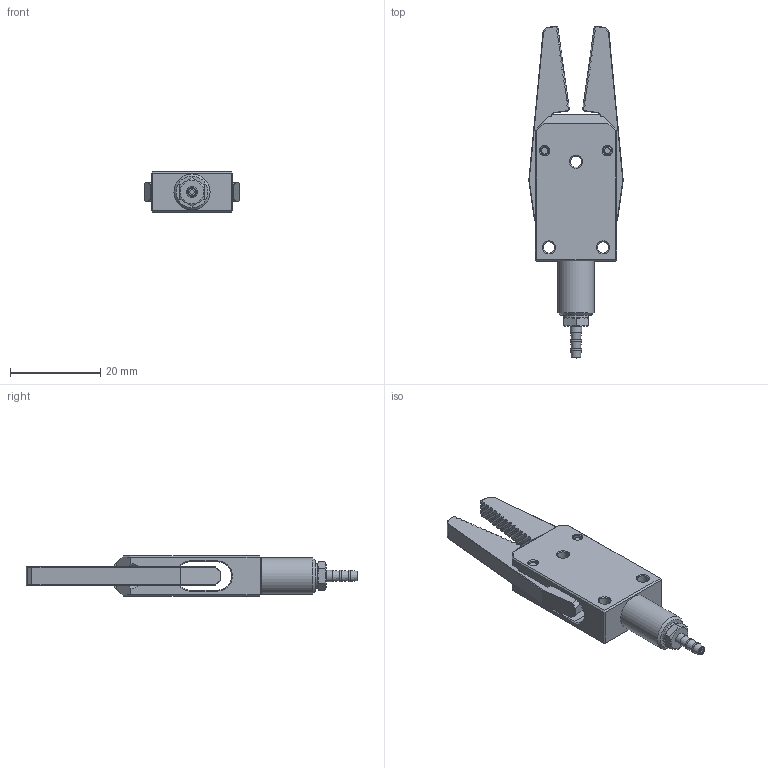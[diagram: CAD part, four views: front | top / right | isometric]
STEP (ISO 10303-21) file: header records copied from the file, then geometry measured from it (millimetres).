
FILE_DESCRIPTION(/* description */ (''),/* implementation_level */ '2;1');
FILE_NAME(/* name */ 'GRS08.stp',/* time_stamp */ '2023-03-08T10:27:21+08:00',/* author */ (''),/* organization */ (''),/* preprocessor_version */ 'ST-DEVELOPER v16',/* originating_system */ 'SIEMENS PLM Software NX 10.0',/* authorisation */ '');
FILE_SCHEMA (('AUTOMOTIVE_DESIGN { 1 0 10303 214 3 1 1 1 }'));
Length unit declared in the file: millimetre
Products named in the file (1): Admi115498B06iew
Bounding box: 20.94 x 73.59 x 9 mm (x, y, z)
Volume: 5560.7 mm3; surface area: 4329.4 mm2
Topology: 1 solids, 3 shells, 433 faces, 1181 edges, 759 vertices
Faces by surface type: plane 347, cone 54, cylinder 31, torus 1
Full cylindrical faces by diameter (mm): 1 x1, 1.9 x6, 2 x2, 2.5 x6, 5.5 x1, 8 x1
Entity records: 16274 total; most frequent: CARTESIAN_POINT 2502, ORIENTED_EDGE 2254, DIRECTION 2076, EDGE_CURVE 1127, LINE 946, VECTOR 946, VERTEX_POINT 747, AXIS2_PLACEMENT_3D 565
